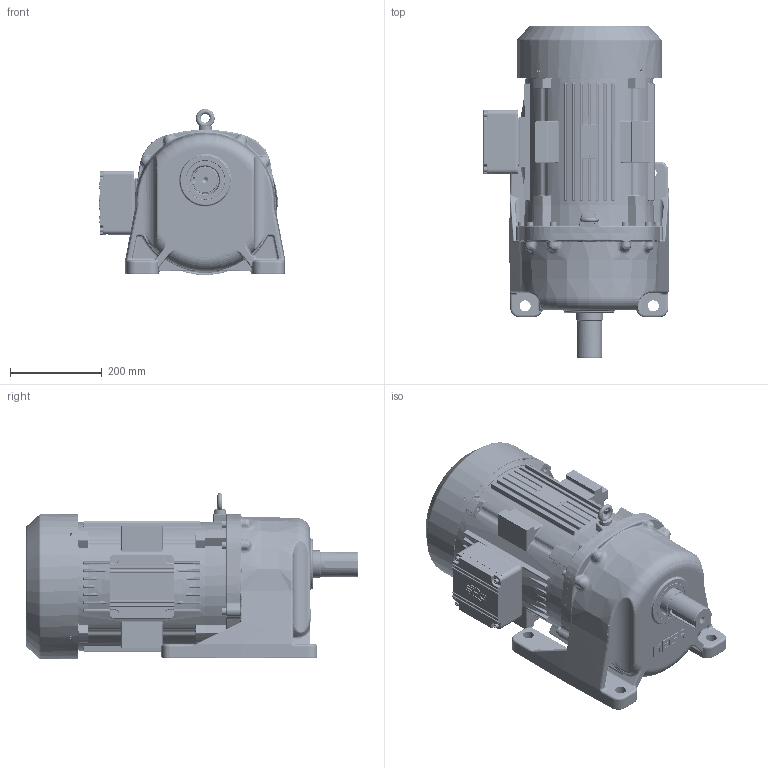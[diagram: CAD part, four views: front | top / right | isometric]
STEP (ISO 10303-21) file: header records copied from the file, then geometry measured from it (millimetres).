
FILE_DESCRIPTION(/* description */ (''),/* implementation_level */ '2;1');
FILE_NAME(/* name */ 'Z:\동력 3D 파일\PML205_11kW_3D.stp',/* time_stamp */ '2021-11-30T17:17:00+09:00',/* author */ ('jaebok'),/* organization */ (''),/* preprocessor_version */ 'ST-DEVELOPER v18.1',/* originating_system */ 'Autodesk Inventor 2022',/* authorisation */ '');
FILE_SCHEMA (('AUTOMOTIVE_DESIGN { 1 0 10303 214 3 1 1 }'));
Length unit declared in the file: millimetre
Products named in the file (1): 부품30
Bounding box: 407.9 x 724.7 x 362.65 mm (x, y, z)
Volume: 12988982.7 mm3; surface area: 2364818.9 mm2
Topology: 2 solids, 12 shells, 6253 faces, 15844 edges, 9491 vertices
Faces by surface type: cylinder 1844, plane 1751, bspline 1537, torus 642, sphere 328, cone 151
Full cylindrical faces by diameter (mm): 3.242 x4, 4.134 x4, 4.917 x9, 5 x13, 6 x4, 6.5 x8, 6.647 x9, 7 x1, 8 x4, 8.376 x1, 9.5 x4, 10 x12, 10.106 x1, 12 x1, 13.2 x1, 13.835 x1, 15 x1, 16 x8, 20 x1, 24 x4, 28 x1, 34 x1, 37 x1, 40 x1, 45 x1, 50 x1, 55 x1, 60 x4, 62 x1, 67.5 x2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
Entity records: 230200 total; most frequent: CARTESIAN_POINT 81442, ORIENTED_EDGE 31092, DIRECTION 27765, EDGE_CURVE 15546, AXIS2_PLACEMENT_3D 10583, VERTEX_POINT 9491, EDGE_LOOP 6769, LINE 6599
